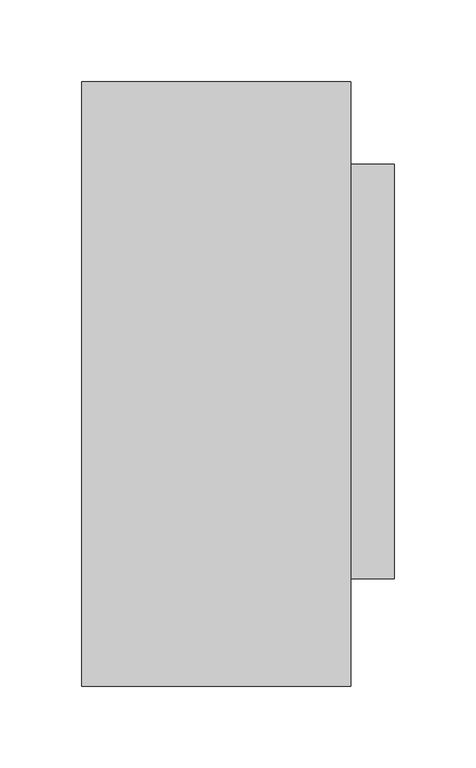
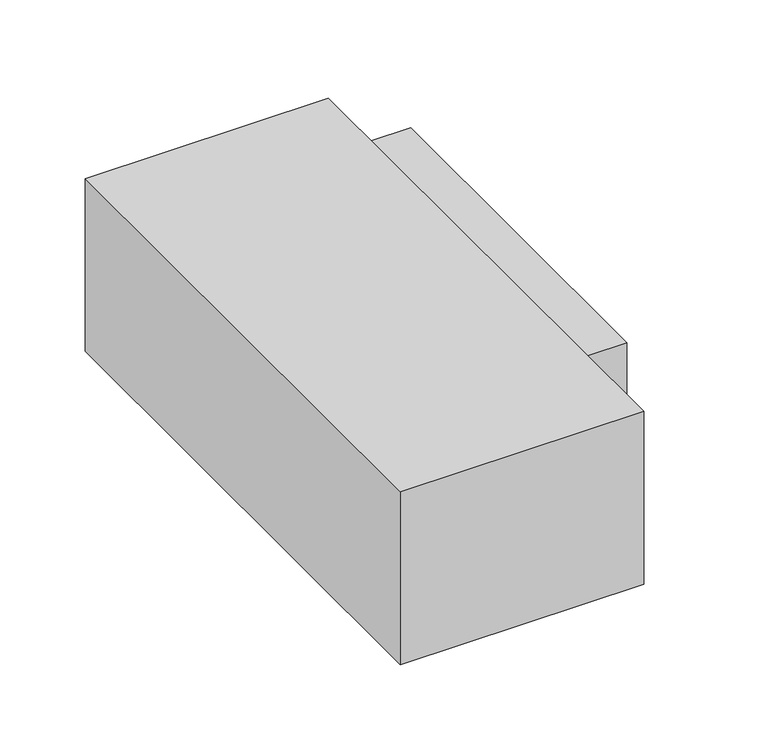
"""IFC4 building model written with IfcOpenShell, lengths in millimetres: proxy geometry, OMAHA - Disconnect Switches : 208V 2P - Fusible 60A."""

import ifcopenshell
import ifcopenshell.guid

model = None  # the IFC model being written
_history = None  # IfcOwnerHistory: only IFC2X3 demands one
_inside = {}  # id of a spatial element -> (the spatial element, [elements in it])
_under = {}  # id of a project, library or spatial element -> (it, [spatial elements below it])
_declared = {}  # id of a project -> (the project, [libraries it declares])
_typed = {}  # id of a type object -> (the type object, [elements of that type])
_made_of = {}  # id of a material, layer set ... -> (it, [elements and type objects made of it])


def new_model(schema):
    """Start an empty IFC model of exactly this schema.

    Asked for "IFC4X3", IfcOpenShell would pick the latest addendum, in which some entities
    have other attributes; the version numbers below select the first issue.
    IFC2X3 requires an IfcOwnerHistory on every rooted entity: one is made here for all.
    """
    global model, _history
    if schema == "IFC4X3":
        model = ifcopenshell.file(schema_version=(4, 3, 0, 0))
    else:
        model = ifcopenshell.file(schema=schema)
    _inside.clear()
    _under.clear()
    _declared.clear()
    _typed.clear()
    _made_of.clear()
    _history = None
    if model.schema == "IFC2X3":
        org = make("IfcOrganization", Name="unknown")
        user = make(
            "IfcPersonAndOrganization",
            ThePerson=make("IfcPerson", FamilyName="unknown"),
            TheOrganization=org,
        )
        app = make(
            "IfcApplication",
            ApplicationDeveloper=org,
            Version="unknown",
            ApplicationFullName="unknown",
            ApplicationIdentifier="unknown",
        )
        _history = make(
            "IfcOwnerHistory",
            OwningUser=user,
            OwningApplication=app,
            ChangeAction="ADDED",
            CreationDate=0,
        )
    return model


def make(cls, **values):
    """One entity of the class cls with the attributes given. An attribute that is None is left unset."""
    return model.create_entity(
        cls, **{name: value for name, value in values.items() if value is not None}
    )


def rooted(cls, **values):
    """An entity with a GlobalId (a new one), such as an element, a storey or a relation."""
    return make(cls, GlobalId=ifcopenshell.guid.new(), OwnerHistory=_history, **values)


def si_unit(unit_type, name, prefix=None):
    """IfcSIUnit, for example si_unit("LENGTHUNIT", "METRE", prefix="MILLI")."""
    return make("IfcSIUnit", UnitType=unit_type, Prefix=prefix, Name=name)


def assignment(units):
    """IfcUnitAssignment: the units of a project."""
    return None if units is None else make("IfcUnitAssignment", Units=units)


def point(xyz):
    """IfcCartesianPoint."""
    return None if xyz is None else make("IfcCartesianPoint", Coordinates=xyz)


def direction(xyz):
    """IfcDirection."""
    return None if xyz is None else make("IfcDirection", DirectionRatios=xyz)


def frame(location, z_axis=None, x_axis=None):
    """IfcAxis2Placement3D, a coordinate frame: its origin and axes. An axis left out is left unset."""
    return make(
        "IfcAxis2Placement3D",
        Location=point(location),
        Axis=direction(z_axis),
        RefDirection=direction(x_axis),
    )


def origin():
    """The frame at (0, 0, 0) with its axes left unset."""
    return frame((0.0, 0.0, 0.0))


def origin_with_axes():
    """The frame at (0, 0, 0) with the z axis (0, 0, 1) and the x axis (1, 0, 0) written out."""
    return frame((0.0, 0.0, 0.0), z_axis=(0.0, 0.0, 1.0), x_axis=(1.0, 0.0, 0.0))


def place(relative_to, where):
    """IfcLocalPlacement: puts the frame where relative to a parent placement (None: the world)."""
    return make(
        "IfcLocalPlacement", PlacementRelTo=relative_to, RelativePlacement=where
    )


def context(
    kind, dimensions, precision=None, world=None, true_north=None, identifier=None
):
    """IfcGeometricRepresentationContext, for example the 3D "Model" context."""
    return make(
        "IfcGeometricRepresentationContext",
        ContextIdentifier=identifier,
        ContextType=kind,
        CoordinateSpaceDimension=dimensions,
        Precision=precision,
        WorldCoordinateSystem=world,
        TrueNorth=true_north,
    )


def project(units=None, contexts=None):
    """IfcProject with its units and contexts."""
    return rooted(
        "IfcProject",
        Name="project",
        RepresentationContexts=contexts,
        UnitsInContext=assignment(units),
    )


def spatial(cls, under=None, at=None, **own):
    """A site, building, storey or space (cls), placed at a placement, below another one or the project."""
    s = rooted(cls, ObjectPlacement=at, **own)
    if under is not None:
        _under.setdefault(under.id(), (under, []))[1].append(s)
    return s


def polyline(points):
    """IfcPolyline through the points."""
    return make("IfcPolyline", Points=[point(p) for p in points])


def outline(outer, holes=None, kind="AREA"):
    """IfcArbitraryClosedProfileDef: a profile drawn as a closed curve; with holes, ...WithVoids."""
    if holes is None:
        return make("IfcArbitraryClosedProfileDef", ProfileType=kind, OuterCurve=outer)
    return make(
        "IfcArbitraryProfileDefWithVoids",
        ProfileType=kind,
        OuterCurve=outer,
        InnerCurves=holes,
    )


def extrude(swept, where, along, depth):
    """IfcExtrudedAreaSolid: the profile swept, set in the frame where, extruded along a direction by depth."""
    return make(
        "IfcExtrudedAreaSolid",
        SweptArea=swept,
        Position=where,
        ExtrudedDirection=direction(along),
        Depth=depth,
    )


def shape(context_of_items, identifier, shape_type, items):
    """IfcShapeRepresentation: the items that make up one representation, for example the "Body"."""
    return make(
        "IfcShapeRepresentation",
        ContextOfItems=context_of_items,
        RepresentationIdentifier=identifier,
        RepresentationType=shape_type,
        Items=items,
    )


def source(mapping_origin, context_of_items, identifier, shape_type, items):
    """IfcRepresentationMap: a shape defined once, which mapped items show again and again."""
    return make(
        "IfcRepresentationMap",
        MappingOrigin=mapping_origin,
        MappedRepresentation=shape(context_of_items, identifier, shape_type, items),
    )


def transform(
    local_origin,
    x_axis=None,
    y_axis=None,
    z_axis=None,
    scale=None,
    scale2=None,
    scale3=None,
    uniform=True,
):
    """IfcCartesianTransformationOperator3D, or its non-uniform kind. x_axis, y_axis, z_axis: its Axis1, 2, 3."""
    if uniform:
        return make(
            "IfcCartesianTransformationOperator3D",
            Axis1=direction(x_axis),
            Axis2=direction(y_axis),
            LocalOrigin=point(local_origin),
            Scale=scale,
            Axis3=direction(z_axis),
        )
    return make(
        "IfcCartesianTransformationOperator3DnonUniform",
        Axis1=direction(x_axis),
        Axis2=direction(y_axis),
        LocalOrigin=point(local_origin),
        Scale=scale,
        Axis3=direction(z_axis),
        Scale2=scale2,
        Scale3=scale3,
    )


def mapped(mapping_source, mapping_target):
    """IfcMappedItem: shows the shape of a source again, moved by a transform."""
    return make(
        "IfcMappedItem", MappingSource=mapping_source, MappingTarget=mapping_target
    )


def made_of(thing, what):
    """Note that an element or type object is made of a material, layer set ...; save() writes the relation."""
    if what is not None:
        _made_of.setdefault(what.id(), (what, []))[1].append(thing)
    return thing


def element(
    cls,
    number,
    at=None,
    inside=None,
    cuts=None,
    type_object=None,
    material=None,
    context=None,
    identifier="Body",
    shape_type=None,
    held_by="IfcProductDefinitionShape",
    body=None,
    shapes=None,
    **own,
):
    """One element of the class cls, such as IfcWall. Its Tag is "e" and its number.

    at: its placement. inside: the storey or other place that contains it. cuts: it is an
    opening in that element (IfcRelVoidsElement). A single representation is given by context,
    identifier, shape_type and body (its items); several are given by shapes. held_by: the class
    of the entity that holds the representations. save() writes the other relations.
    """
    e = rooted(cls, Tag="e%d" % number, ObjectPlacement=at, **own)
    if body is not None:
        shapes = [shape(context, identifier, shape_type, body)]
    if shapes is not None:
        e.Representation = make(held_by, Representations=shapes)
    if inside is not None:
        _inside.setdefault(inside.id(), (inside, []))[1].append(e)
    if cuts is not None:
        rooted(
            "IfcRelVoidsElement", RelatingBuildingElement=cuts, RelatedOpeningElement=e
        )
    if type_object is not None:
        _typed.setdefault(type_object.id(), (type_object, []))[1].append(e)
    return made_of(e, material)


def aggregate(whole, parts):
    """IfcRelAggregates: a whole, such as a stair, and the parts it consists of."""
    return rooted("IfcRelAggregates", RelatingObject=whole, RelatedObjects=parts)


def save(model, path):
    """Write the relations noted so far, then the file.

    IfcRelAggregates (storeys below a building ...), IfcRelContainedInSpatialStructure (elements
    in a storey), IfcRelDefinesByType, IfcRelAssociatesMaterial and IfcRelDeclares: one each for
    every whole, place, type object, material and project.
    """
    for whole, parts in _under.values():
        aggregate(whole, parts)
    for where, things in _inside.values():
        rooted(
            "IfcRelContainedInSpatialStructure",
            RelatedElements=things,
            RelatingStructure=where,
        )
    for kind, things in _typed.values():
        rooted("IfcRelDefinesByType", RelatedObjects=things, RelatingType=kind)
    for what, things in _made_of.values():
        rooted("IfcRelAssociatesMaterial", RelatedObjects=things, RelatingMaterial=what)
    for by, libraries in _declared.values():
        rooted("IfcRelDeclares", RelatingContext=by, RelatedDefinitions=libraries)
    model.write(path)


def electrical_fixtures_e78e91f7(model_context):
    return source(origin(), model_context, "Body", "SweptSolid", [
        extrude(outline(polyline([(69.2050781, 0.0), (69.2050781, -370.8796875), (-95.8949219, -370.8796875), (-95.8949219, 0.0), (69.2050781, 0.0)])), origin_with_axes(), (0.0, 0.0, 1.0), 123.9242188),
        extrude(outline(polyline([(69.2050781, -50.8), (95.8949219, -50.8), (95.8949219, -304.8), (69.2050781, -304.8), (69.2050781, -50.8)])), frame((0.0, 0.0, 22.3242187), z_axis=(0.0, 0.0, 1.0), x_axis=(1.0, 0.0, 0.0)), (0.0, 0.0, 1.0), 101.6),
    ])


if __name__ == "__main__":
    model = new_model("IFC4")
    model_context = context("Model", 3, world=origin())
    ifc_project = project(units=[si_unit("LENGTHUNIT", "METRE", prefix="MILLI")], contexts=[model_context])
    site = spatial("IfcSite", under=ifc_project)
    building = spatial("IfcBuilding", under=site)
    placement = place(None, origin())
    electrical_fixtures_shape = electrical_fixtures_e78e91f7(model_context)
    element("IfcBuildingElementProxy", 1, Name="OMAHA - Disconnect Switches : 208V 2P - Fusible 60A", ObjectType="OMAHA - Disconnect Switches : 208V 2P - Fusible 60A", at=placement, inside=building, context=model_context, shape_type="MappedRepresentation", body=[
        mapped(electrical_fixtures_shape, transform((0.0, 0.0, 0.0), x_axis=(1.0, 0.0, 0.0), y_axis=(0.0, 1.0, 0.0), z_axis=(0.0, 0.0, 1.0))),
    ])
    save(model, "model.ifc")
